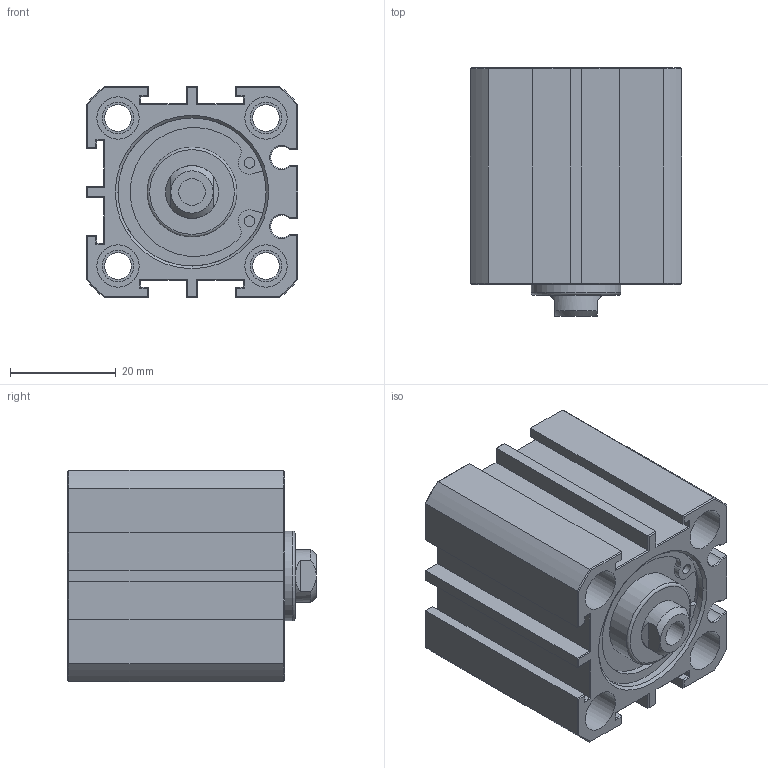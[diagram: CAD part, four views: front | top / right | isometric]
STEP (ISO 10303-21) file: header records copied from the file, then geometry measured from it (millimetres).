
FILE_DESCRIPTION(/* description */ (''),/* implementation_level */ '2;1');
FILE_NAME(/* name */ 'AJC-SDM25X10N',/* time_stamp */ '2019-06-19T16:12:48+08:00',/* author */ ('JEFF HUANG'),/* organization */ ('TAIWAN AMAC CLAMP INDUSTRIAL CO., LTD.'),/* preprocessor_version */ 'ST-DEVELOPER v16.7',/* originating_system */ 'DEX',/* authorisation */ $);
FILE_SCHEMA (('AUTOMOTIVE_DESIGN {1 0 10303 214 3 1 1}'));
Length unit declared in the file: millimetre
Products named in the file (1): AJC-SDM25X10N
Bounding box: 40 x 47 x 40 mm (x, y, z)
Volume: 50010.9 mm3; surface area: 16547.8 mm2
Topology: 1 solids, 1 shells, 249 faces, 543 edges, 324 vertices
Faces by surface type: plane 180, cylinder 51, cone 16, torus 2
Full cylindrical faces by diameter (mm): 2.004 x4, 5 x3, 5.1 x4, 6 x8, 8 x8, 17 x2, 28 x2
Entity records: 8231 total; most frequent: CARTESIAN_POINT 1158, DIRECTION 1102, ORIENTED_EDGE 1008, EDGE_CURVE 504, AXIS2_PLACEMENT_3D 376, LINE 350, VECTOR 350, VERTEX_POINT 320
